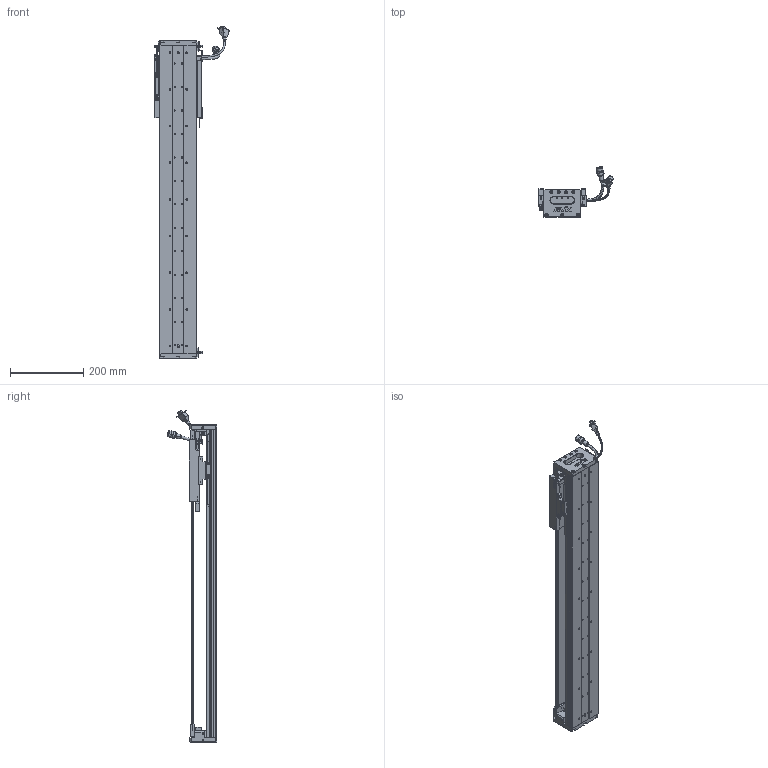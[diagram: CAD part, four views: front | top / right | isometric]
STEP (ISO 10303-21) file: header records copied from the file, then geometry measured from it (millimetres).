
FILE_DESCRIPTION (( 'STEP AP203' ), '1' );
FILE_NAME ('Z2-RY100D-1-L500-B-K.SLDASM_0600.step', '2021-05-17T02:35:21', ( '盈信电脑' ), ( '东莞市道滘镇水果街19号' ), 'SwSTEP 2.0', 'SolidWorks 2016', '' );
FILE_SCHEMA (( 'CONFIG_CONTROL_DESIGN' ));
Length unit declared in the file: millimetre
Products named in the file (36): PSLH080_PSLF2; COVER-Part-1; Z-RY100D覜茼んえ; SCALE-Part-1; LABEL; Z2-RY100D-500-倰第菁釱_0600; Z2-RY100D-1-L500-B-K.SLDASM_0600; 100-Z-臏賑輸盄裔(21遴); HARNESS-Part-2; Z2-RY100-L500詩湍90mm遵_0600; SCREW-M1.6-3; 榋妏寠巭燃_暯_M2_2; SCREW-M1.6-2; LABEL-Part-1; Z-RY100D詩湍奻揤裔; HARNESS; SCREW-M1.6-1; COVER; SCREW-M1.7-1; HOLDER0; SCALE-Part-2; SCREW-M1.6; SEAL-Part-1; PBU_SHEET; Z2-RY100铝滑块（21款）; SHIELDPLATE; 140蚥薯蝶輸; Z-RY100D詩湍狟揤裔; 140雄赽晤鎢ん堤盄; SCREW-M1.7; SEAL; HARNESS-Part-1; Z-100詩湍傷裔啣; SCALE; 覜茼ん672; 080黍杅芛假蚾釱21遴
Assembly tree (43 placements, depth 4):
  Z2-RY100D-1-L500-B-K.SLDASM_0600
    Z2-RY100D-500-倰第菁釱_0600
    Z2-RY100铝滑块（21款）
    PSLH080_PSLF2
      SCALE
        SCALE-Part-1
        SCALE-Part-2
      HARNESS
        HARNESS-Part-1
        HARNESS-Part-2
      LABEL
        LABEL-Part-1
      COVER
        COVER-Part-1
      SEAL
        SEAL-Part-1
      榋妏寠巭燃_暯_M2_2
      SHIELDPLATE
      SCREW-M1.7
      SCREW-M1.7-1
      PBU_SHEET
      SCREW-M1.6
      SCREW-M1.6-1
      SCREW-M1.6-2
      SCREW-M1.6-3
      HOLDER0
    080黍杅芛假蚾釱21遴
    Z-100詩湍傷裔啣  x2
    140蚥薯蝶輸  x2
    覜茼ん672  x3
    Z-RY100D覜茼んえ  x3
    100-Z-臏賑輸盄裔(21遴)
    140雄赽晤鎢ん堤盄
    Z2-RY100-L500詩湍90mm遵_0600
    Z-RY100D詩湍狟揤裔  x2
    Z-RY100D詩湍奻揤裔  x2
Bounding box: 205.84 x 136.11 x 905.43 mm (x, y, z)
Volume: 1968186.7 mm3; surface area: 756033.6 mm2
Topology: 38 solids, 38 shells, 2516 faces, 6567 edges, 4152 vertices
Faces by surface type: plane 1114, cylinder 1062, cone 218, torus 69, bspline 53
Entity records: 67691 total; most frequent: CARTESIAN_POINT 14316, DIRECTION 10663, ORIENTED_EDGE 10030, EDGE_CURVE 5015, AXIS2_PLACEMENT_3D 3899, VERTEX_POINT 3220, VECTOR 2865, LINE 2865
